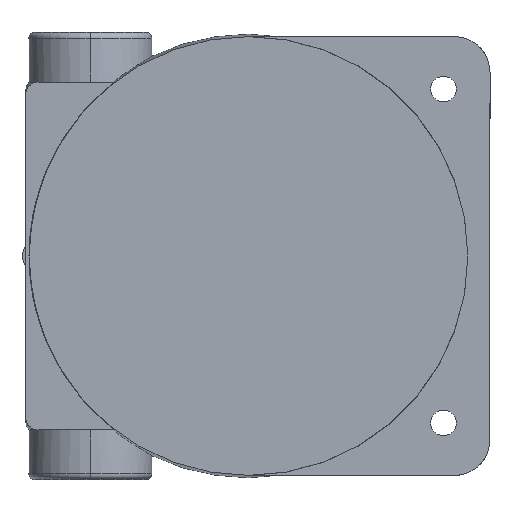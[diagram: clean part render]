
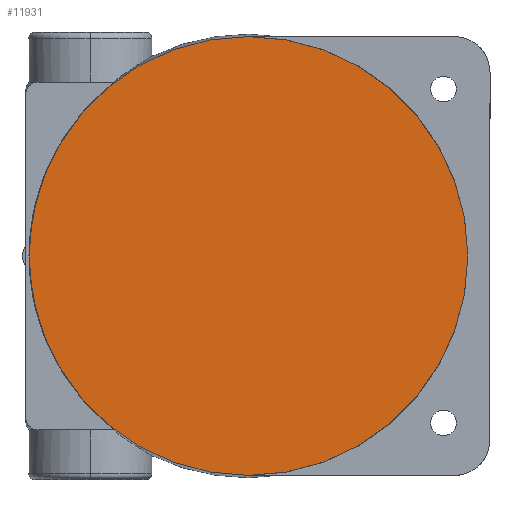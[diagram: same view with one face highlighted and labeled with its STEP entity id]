
A CAD part, left-side view. The second image highlights one B-rep face of the part: STEP entity #11931.
In plain terms, the highlighted planar face has unit normal (-1, 0, 0) as drawn and (0, 0, 1) by its records, which use the part's own axes.
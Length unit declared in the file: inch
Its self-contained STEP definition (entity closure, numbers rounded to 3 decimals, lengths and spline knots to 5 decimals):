
#359 = ORIENTED_EDGE ( 'NONE', *, *, #12604, .T. ) ;
#515 = DIRECTION ( 'NONE',  ( 0., 0., 1. ) ) ;
#1108 = DIRECTION ( 'NONE',  ( 0., 0., 1. ) ) ;
#2761 = VERTEX_POINT ( 'NONE', #5710 ) ;
#3376 = CARTESIAN_POINT ( 'NONE',  ( 0., 0., 0.00138 ) ) ;
#3684 = ORIENTED_EDGE ( 'NONE', *, *, #7826, .T. ) ;
#4115 = AXIS2_PLACEMENT_3D ( 'NONE', #4654, #14159, #4537 ) ;
#4537 = DIRECTION ( 'NONE',  ( 1., 0., 0. ) ) ;
#4654 = CARTESIAN_POINT ( 'NONE',  ( 0., 0., 0.00138 ) ) ;
#5434 = CARTESIAN_POINT ( 'NONE',  ( 0., 0., 0.00138 ) ) ;
#5710 = CARTESIAN_POINT ( 'NONE',  ( 2.67, 0., 0.00138 ) ) ;
#7826 = EDGE_CURVE ( 'NONE', #2761, #16420, #11857, .T. ) ;
#10380 = PLANE ( 'NONE',  #13061 ) ;
#11167 = CIRCLE ( 'NONE', #14515, 2.67 ) ;
#11660 = FACE_OUTER_BOUND ( 'NONE', #18250, .T. ) ;
#11857 = CIRCLE ( 'NONE', #4115, 2.67 ) ;
#11931 = ADVANCED_FACE ( 'NONE', ( #11660 ), #10380, .T. ) ;
#12604 = EDGE_CURVE ( 'NONE', #16420, #2761, #11167, .T. ) ;
#12883 = CARTESIAN_POINT ( 'NONE',  ( -2.67, 0., 0.00138 ) ) ;
#13061 = AXIS2_PLACEMENT_3D ( 'NONE', #3376, #515, #16006 ) ;
#14159 = DIRECTION ( 'NONE',  ( 0., 0., 1. ) ) ;
#14515 = AXIS2_PLACEMENT_3D ( 'NONE', #5434, #1108, #15420 ) ;
#15420 = DIRECTION ( 'NONE',  ( 1., 0., 0. ) ) ;
#16006 = DIRECTION ( 'NONE',  ( 1., 0., 0. ) ) ;
#16420 = VERTEX_POINT ( 'NONE', #12883 ) ;
#18250 = EDGE_LOOP ( 'NONE', ( #359, #3684 ) ) ;
